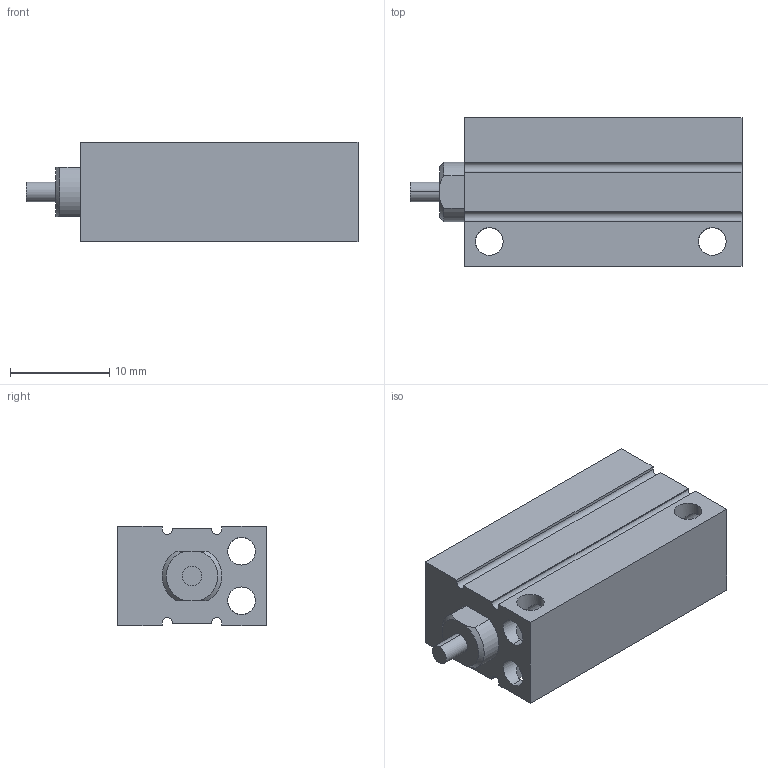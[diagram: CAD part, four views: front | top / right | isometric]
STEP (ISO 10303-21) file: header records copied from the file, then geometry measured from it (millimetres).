
FILE_DESCRIPTION (( 'STEP AP203' ), '1' );
FILE_NAME ('CLJB4-15.STEP', '2020-07-30T18:41:21', ( '' ), ( '' ), 'SwSTEP 2.0', 'SolidWorks 2019', '' );
FILE_SCHEMA (( 'CONFIG_CONTROL_DESIGN' ));
Length unit declared in the file: millimetre
Products named in the file (1): CLJB4-15
Bounding box: 33.5 x 15 x 10 mm (x, y, z)
Volume: 3564.2 mm3; surface area: 2848.6 mm2
Topology: 2 solids, 2 shells, 80 faces, 208 edges, 126 vertices
Faces by surface type: cylinder 44, plane 26, cone 10
Entity records: 2501 total; most frequent: CARTESIAN_POINT 519, ORIENTED_EDGE 408, DIRECTION 392, EDGE_CURVE 204, AXIS2_PLACEMENT_3D 143, VERTEX_POINT 126, VECTOR 106, LINE 106
